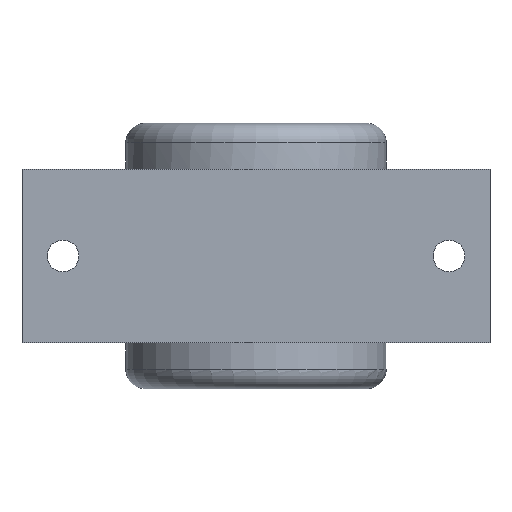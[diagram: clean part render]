
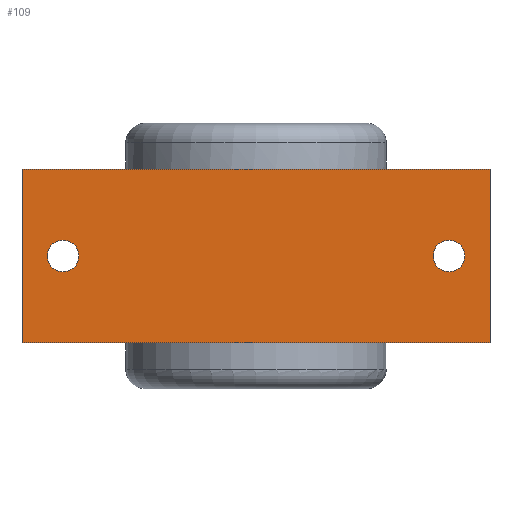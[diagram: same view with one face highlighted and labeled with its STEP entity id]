
A CAD part, front view. The second image highlights one B-rep face of the part: STEP entity #109.
In plain terms, the highlighted planar face has unit normal (0, -1, 0).
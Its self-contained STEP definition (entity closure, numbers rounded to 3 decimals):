
#109=ADVANCED_FACE('',(#219,#220,#221),#222,.T.);
#219=FACE_BOUND('',#361,.T.);
#220=FACE_OUTER_BOUND('',#362,.T.);
#221=FACE_BOUND('',#363,.T.);
#222=PLANE('',#364);
#361=EDGE_LOOP('',(#684));
#362=EDGE_LOOP('',(#685,#686,#687,#688));
#363=EDGE_LOOP('',(#689));
#364=AXIS2_PLACEMENT_3D('',#690,#691,#692);
#684=ORIENTED_EDGE('',*,*,#952,.T.);
#685=ORIENTED_EDGE('',*,*,#994,.F.);
#686=ORIENTED_EDGE('',*,*,#995,.F.);
#687=ORIENTED_EDGE('',*,*,#996,.T.);
#688=ORIENTED_EDGE('',*,*,#992,.T.);
#689=ORIENTED_EDGE('',*,*,#951,.T.);
#690=CARTESIAN_POINT('',(48.5,0.0,18.0));
#691=DIRECTION('',(0.0,-1.0,0.0));
#692=DIRECTION('',(1.0,0.0,0.0));
#951=EDGE_CURVE('',#1149,#1149,#1150,.F.);
#952=EDGE_CURVE('',#1151,#1151,#1152,.F.);
#992=EDGE_CURVE('',#1215,#1213,#1216,.T.);
#994=EDGE_CURVE('',#1218,#1213,#1219,.T.);
#995=EDGE_CURVE('',#1220,#1218,#1221,.T.);
#996=EDGE_CURVE('',#1220,#1215,#1222,.T.);
#1149=VERTEX_POINT('',#1438);
#1150=CIRCLE('',#1439,3.3);
#1151=VERTEX_POINT('',#1440);
#1152=CIRCLE('',#1441,3.3);
#1213=VERTEX_POINT('',#1531);
#1215=VERTEX_POINT('',#1534);
#1216=LINE('',#1535,#1536);
#1218=VERTEX_POINT('',#1539);
#1219=LINE('',#1540,#1541);
#1220=VERTEX_POINT('',#1542);
#1221=LINE('',#1543,#1544);
#1222=LINE('',#1545,#1546);
#1438=CARTESIAN_POINT('',(40.0,0.0,-3.3));
#1439=AXIS2_PLACEMENT_3D('',#1739,#1740,#1741);
#1440=CARTESIAN_POINT('',(-40.0,0.0,-3.3));
#1441=AXIS2_PLACEMENT_3D('',#1742,#1743,#1744);
#1531=CARTESIAN_POINT('',(-48.5,0.0,-18.0));
#1534=CARTESIAN_POINT('',(-48.5,0.0,18.0));
#1535=CARTESIAN_POINT('',(-48.5,0.0,18.0));
#1536=VECTOR('',#1802,1.0);
#1539=CARTESIAN_POINT('',(48.5,0.,-18.0));
#1540=CARTESIAN_POINT('',(48.5,0.0,-18.0));
#1541=VECTOR('',#1804,1.0);
#1542=CARTESIAN_POINT('',(48.5,0.,18.0));
#1543=CARTESIAN_POINT('',(48.5,0.,18.0));
#1544=VECTOR('',#1805,1.0);
#1545=CARTESIAN_POINT('',(48.5,0.0,18.0));
#1546=VECTOR('',#1806,1.0);
#1739=CARTESIAN_POINT('',(40.0,0.0,0.0));
#1740=DIRECTION('',(0.0,-1.0,0.0));
#1741=DIRECTION('',(0.0,0.0,-1.0));
#1742=CARTESIAN_POINT('',(-40.0,0.0,0.0));
#1743=DIRECTION('',(0.0,-1.0,0.0));
#1744=DIRECTION('',(0.0,0.0,-1.0));
#1802=DIRECTION('',(0.0,0.0,-1.0));
#1804=DIRECTION('',(-1.0,0.0,0.0));
#1805=DIRECTION('',(0.0,0.0,-1.0));
#1806=DIRECTION('',(-1.0,0.0,0.0));
